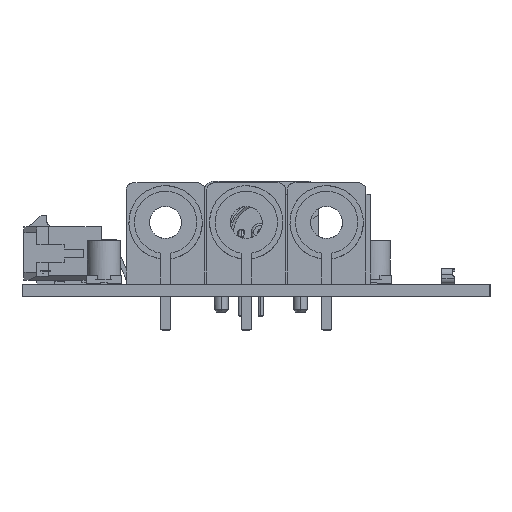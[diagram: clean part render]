
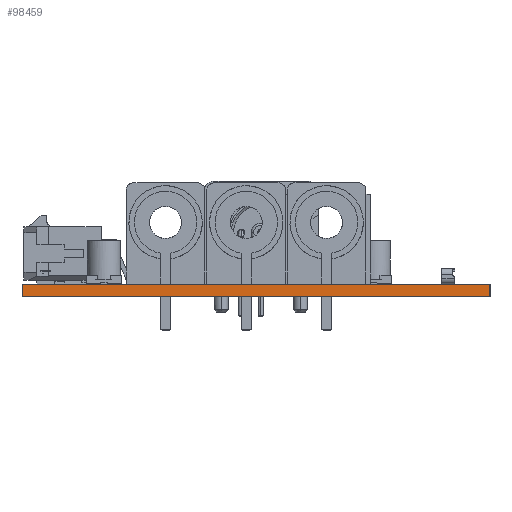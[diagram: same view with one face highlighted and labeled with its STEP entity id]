
A CAD part, left-side view. The second image highlights one B-rep face of the part: STEP entity #98459.
In plain terms, the highlighted planar face has unit normal (-1, 0, 0).
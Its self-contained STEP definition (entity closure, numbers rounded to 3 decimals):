
#98459 = ADVANCED_FACE('',(#98460),#98474,.T.);
#98460 = FACE_BOUND('',#98461,.T.);
#98461 = EDGE_LOOP('',(#98462,#98497,#98525,#98553));
#98462 = ORIENTED_EDGE('',*,*,#98463,.T.);
#98463 = EDGE_CURVE('',#98464,#98466,#98468,.T.);
#98464 = VERTEX_POINT('',#98465);
#98465 = CARTESIAN_POINT('',(0.,-0.,0.));
#98466 = VERTEX_POINT('',#98467);
#98467 = CARTESIAN_POINT('',(0.,0.,1.6));
#98468 = SURFACE_CURVE('',#98469,(#98473,#98485),.PCURVE_S1.);
#98469 = LINE('',#98470,#98471);
#98470 = CARTESIAN_POINT('',(0.,-0.,0.));
#98471 = VECTOR('',#98472,1.);
#98472 = DIRECTION('',(0.,0.,1.));
#98473 = PCURVE('',#98474,#98479);
#98474 = PLANE('',#98475);
#98475 = AXIS2_PLACEMENT_3D('',#98476,#98477,#98478);
#98476 = CARTESIAN_POINT('',(0.,0.,0.));
#98477 = DIRECTION('',(-1.,0.,0.));
#98478 = DIRECTION('',(0.,1.,0.));
#98479 = DEFINITIONAL_REPRESENTATION('',(#98480),#98484);
#98480 = LINE('',#98481,#98482);
#98481 = CARTESIAN_POINT('',(0.,0.));
#98482 = VECTOR('',#98483,1.);
#98483 = DIRECTION('',(0.,-1.));
#98484 = ( GEOMETRIC_REPRESENTATION_CONTEXT(2) 
PARAMETRIC_REPRESENTATION_CONTEXT() REPRESENTATION_CONTEXT('2D SPACE',''
  ) );
#98485 = PCURVE('',#98486,#98491);
#98486 = PLANE('',#98487);
#98487 = AXIS2_PLACEMENT_3D('',#98488,#98489,#98490);
#98488 = CARTESIAN_POINT('',(80.,0.,0.));
#98489 = DIRECTION('',(0.,-1.,0.));
#98490 = DIRECTION('',(-1.,0.,0.));
#98491 = DEFINITIONAL_REPRESENTATION('',(#98492),#98496);
#98492 = LINE('',#98493,#98494);
#98493 = CARTESIAN_POINT('',(80.,0.));
#98494 = VECTOR('',#98495,1.);
#98495 = DIRECTION('',(0.,-1.));
#98496 = ( GEOMETRIC_REPRESENTATION_CONTEXT(2) 
PARAMETRIC_REPRESENTATION_CONTEXT() REPRESENTATION_CONTEXT('2D SPACE',''
  ) );
#98497 = ORIENTED_EDGE('',*,*,#98498,.T.);
#98498 = EDGE_CURVE('',#98466,#98499,#98501,.T.);
#98499 = VERTEX_POINT('',#98500);
#98500 = CARTESIAN_POINT('',(0.,60.,1.6));
#98501 = SURFACE_CURVE('',#98502,(#98506,#98513),.PCURVE_S1.);
#98502 = LINE('',#98503,#98504);
#98503 = CARTESIAN_POINT('',(0.,0.,1.6));
#98504 = VECTOR('',#98505,1.);
#98505 = DIRECTION('',(0.,1.,0.));
#98506 = PCURVE('',#98474,#98507);
#98507 = DEFINITIONAL_REPRESENTATION('',(#98508),#98512);
#98508 = LINE('',#98509,#98510);
#98509 = CARTESIAN_POINT('',(0.,-1.6));
#98510 = VECTOR('',#98511,1.);
#98511 = DIRECTION('',(1.,0.));
#98512 = ( GEOMETRIC_REPRESENTATION_CONTEXT(2) 
PARAMETRIC_REPRESENTATION_CONTEXT() REPRESENTATION_CONTEXT('2D SPACE',''
  ) );
#98513 = PCURVE('',#98514,#98519);
#98514 = PLANE('',#98515);
#98515 = AXIS2_PLACEMENT_3D('',#98516,#98517,#98518);
#98516 = CARTESIAN_POINT('',(40.,30.,1.6));
#98517 = DIRECTION('',(-0.,-0.,-1.));
#98518 = DIRECTION('',(-1.,0.,0.));
#98519 = DEFINITIONAL_REPRESENTATION('',(#98520),#98524);
#98520 = LINE('',#98521,#98522);
#98521 = CARTESIAN_POINT('',(40.,-30.));
#98522 = VECTOR('',#98523,1.);
#98523 = DIRECTION('',(0.,1.));
#98524 = ( GEOMETRIC_REPRESENTATION_CONTEXT(2) 
PARAMETRIC_REPRESENTATION_CONTEXT() REPRESENTATION_CONTEXT('2D SPACE',''
  ) );
#98525 = ORIENTED_EDGE('',*,*,#98526,.F.);
#98526 = EDGE_CURVE('',#98527,#98499,#98529,.T.);
#98527 = VERTEX_POINT('',#98528);
#98528 = CARTESIAN_POINT('',(0.,60.,0.));
#98529 = SURFACE_CURVE('',#98530,(#98534,#98541),.PCURVE_S1.);
#98530 = LINE('',#98531,#98532);
#98531 = CARTESIAN_POINT('',(0.,60.,0.));
#98532 = VECTOR('',#98533,1.);
#98533 = DIRECTION('',(0.,0.,1.));
#98534 = PCURVE('',#98474,#98535);
#98535 = DEFINITIONAL_REPRESENTATION('',(#98536),#98540);
#98536 = LINE('',#98537,#98538);
#98537 = CARTESIAN_POINT('',(60.,0.));
#98538 = VECTOR('',#98539,1.);
#98539 = DIRECTION('',(0.,-1.));
#98540 = ( GEOMETRIC_REPRESENTATION_CONTEXT(2) 
PARAMETRIC_REPRESENTATION_CONTEXT() REPRESENTATION_CONTEXT('2D SPACE',''
  ) );
#98541 = PCURVE('',#98542,#98547);
#98542 = PLANE('',#98543);
#98543 = AXIS2_PLACEMENT_3D('',#98544,#98545,#98546);
#98544 = CARTESIAN_POINT('',(0.,60.,0.));
#98545 = DIRECTION('',(0.,1.,0.));
#98546 = DIRECTION('',(1.,0.,0.));
#98547 = DEFINITIONAL_REPRESENTATION('',(#98548),#98552);
#98548 = LINE('',#98549,#98550);
#98549 = CARTESIAN_POINT('',(0.,0.));
#98550 = VECTOR('',#98551,1.);
#98551 = DIRECTION('',(0.,-1.));
#98552 = ( GEOMETRIC_REPRESENTATION_CONTEXT(2) 
PARAMETRIC_REPRESENTATION_CONTEXT() REPRESENTATION_CONTEXT('2D SPACE',''
  ) );
#98553 = ORIENTED_EDGE('',*,*,#98554,.F.);
#98554 = EDGE_CURVE('',#98464,#98527,#98555,.T.);
#98555 = SURFACE_CURVE('',#98556,(#98560,#98567),.PCURVE_S1.);
#98556 = LINE('',#98557,#98558);
#98557 = CARTESIAN_POINT('',(0.,-0.,0.));
#98558 = VECTOR('',#98559,1.);
#98559 = DIRECTION('',(0.,1.,0.));
#98560 = PCURVE('',#98474,#98561);
#98561 = DEFINITIONAL_REPRESENTATION('',(#98562),#98566);
#98562 = LINE('',#98563,#98564);
#98563 = CARTESIAN_POINT('',(0.,0.));
#98564 = VECTOR('',#98565,1.);
#98565 = DIRECTION('',(1.,0.));
#98566 = ( GEOMETRIC_REPRESENTATION_CONTEXT(2) 
PARAMETRIC_REPRESENTATION_CONTEXT() REPRESENTATION_CONTEXT('2D SPACE',''
  ) );
#98567 = PCURVE('',#98568,#98573);
#98568 = PLANE('',#98569);
#98569 = AXIS2_PLACEMENT_3D('',#98570,#98571,#98572);
#98570 = CARTESIAN_POINT('',(40.,30.,0.));
#98571 = DIRECTION('',(-0.,-0.,-1.));
#98572 = DIRECTION('',(-1.,0.,0.));
#98573 = DEFINITIONAL_REPRESENTATION('',(#98574),#98578);
#98574 = LINE('',#98575,#98576);
#98575 = CARTESIAN_POINT('',(40.,-30.));
#98576 = VECTOR('',#98577,1.);
#98577 = DIRECTION('',(0.,1.));
#98578 = ( GEOMETRIC_REPRESENTATION_CONTEXT(2) 
PARAMETRIC_REPRESENTATION_CONTEXT() REPRESENTATION_CONTEXT('2D SPACE',''
  ) );
